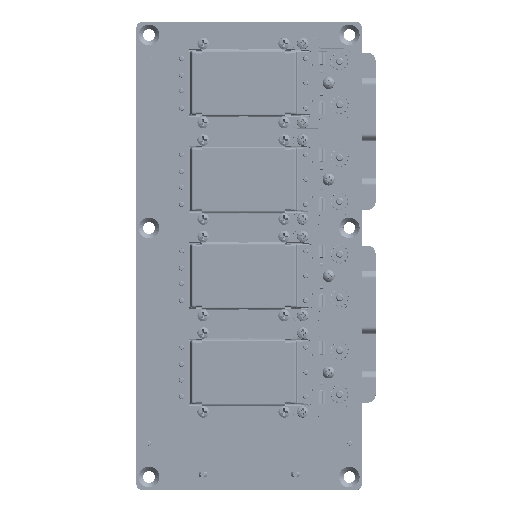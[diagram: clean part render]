
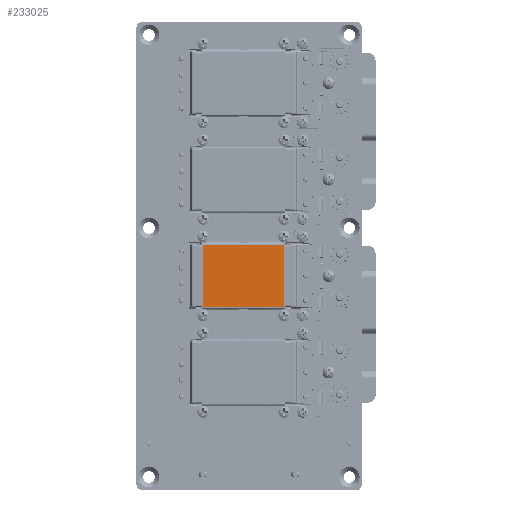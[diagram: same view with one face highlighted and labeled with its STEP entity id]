
A CAD part, top view. The second image highlights one B-rep face of the part: STEP entity #233025.
In plain terms, the highlighted planar face has unit normal (0, 0, 1).
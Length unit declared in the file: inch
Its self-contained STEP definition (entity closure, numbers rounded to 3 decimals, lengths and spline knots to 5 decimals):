
#74052 = VERTEX_POINT ( 'NONE', #189897 ) ;
#74055 = VERTEX_POINT ( 'NONE', #189899 ) ;
#74058 = VERTEX_POINT ( 'NONE', #189902 ) ;
#74061 = VERTEX_POINT ( 'NONE', #189906 ) ;
#189897 = CARTESIAN_POINT ( 'NONE',  ( -2.55199, 0.17835, 0.71545 ) ) ;
#189899 = CARTESIAN_POINT ( 'NONE',  ( -1.24809, 0.17835, 0.71545 ) ) ;
#189902 = CARTESIAN_POINT ( 'NONE',  ( -2.55199, -0.82465, 0.71545 ) ) ;
#189906 = CARTESIAN_POINT ( 'NONE',  ( -1.24809, -0.82465, 0.71545 ) ) ;
#233025 = ADVANCED_FACE ( 'NONE', ( #407133 ), #410761, .T. ) ;
#233903 = EDGE_CURVE ( 'NONE', #74058, #74052, #415099, .T. ) ;
#233906 = EDGE_CURVE ( 'NONE', #74052, #74055, #415102, .T. ) ;
#233908 = EDGE_CURVE ( 'NONE', #74061, #74058, #415107, .T. ) ;
#233911 = EDGE_CURVE ( 'NONE', #74055, #74061, #415111, .T. ) ;
#252214 = ORIENTED_EDGE ( 'NONE', *, *, #233911, .F. ) ;
#252240 = ORIENTED_EDGE ( 'NONE', *, *, #233908, .F. ) ;
#252886 = ORIENTED_EDGE ( 'NONE', *, *, #233903, .F. ) ;
#252910 = ORIENTED_EDGE ( 'NONE', *, *, #233906, .F. ) ;
#407133 = FACE_OUTER_BOUND ( 'NONE', #443269, .T. ) ;
#410761 = PLANE ( 'NONE',  #444549 ) ;
#410767 = CARTESIAN_POINT ( 'NONE',  ( 6.16446, -5.973, 0.71545 ) ) ;
#410772 = DIRECTION ( 'NONE',  ( 0., 0., 1. ) ) ;
#410778 = DIRECTION ( 'NONE',  ( 0., 1., 0. ) ) ;
#415099 = LINE ( 'NONE', #437214, #446686 ) ;
#415102 = LINE ( 'NONE', #437225, #446693 ) ;
#415107 = LINE ( 'NONE', #437236, #446701 ) ;
#415111 = LINE ( 'NONE', #437246, #446708 ) ;
#437214 = CARTESIAN_POINT ( 'NONE',  ( -2.55199, 0.17835, 0.71545 ) ) ;
#437218 = DIRECTION ( 'NONE',  ( 0., 1., 0. ) ) ;
#437225 = CARTESIAN_POINT ( 'NONE',  ( -1.24809, 0.17835, 0.71545 ) ) ;
#437229 = DIRECTION ( 'NONE',  ( 1., 0., 0. ) ) ;
#437236 = CARTESIAN_POINT ( 'NONE',  ( -2.55199, -0.82465, 0.71545 ) ) ;
#437240 = DIRECTION ( 'NONE',  ( -1., 0., 0. ) ) ;
#437246 = CARTESIAN_POINT ( 'NONE',  ( -1.24809, -0.82465, 0.71545 ) ) ;
#437249 = DIRECTION ( 'NONE',  ( 0., -1., 0. ) ) ;
#443269 = EDGE_LOOP ( 'NONE', ( #252910, #252886, #252240, #252214 ) ) ;
#444549 = AXIS2_PLACEMENT_3D ( 'NONE', #410767, #410772, #410778 ) ;
#446686 = VECTOR ( 'NONE', #437218, 39.37008 ) ;
#446693 = VECTOR ( 'NONE', #437229, 39.37008 ) ;
#446701 = VECTOR ( 'NONE', #437240, 39.37008 ) ;
#446708 = VECTOR ( 'NONE', #437249, 39.37008 ) ;
